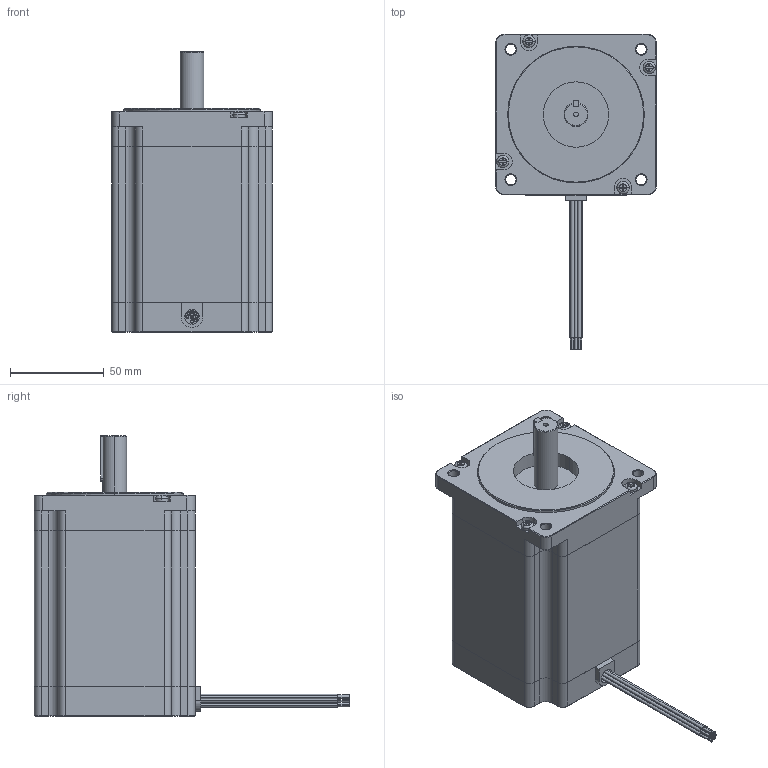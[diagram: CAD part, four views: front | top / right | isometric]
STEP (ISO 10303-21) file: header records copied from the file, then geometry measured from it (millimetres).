
FILE_DESCRIPTION (( 'STEP AP214' ), '1' );
FILE_NAME ('34Y208S-LW8.STEP', '2010-06-09T18:41:22', ( 'Tim Raines' ), ( 'Anaheim Automation' ), 'SwSTEP 2.0', 'SolidWorks 2010', '' );
FILE_SCHEMA (( 'AUTOMOTIVE_DESIGN' ));
Length unit declared in the file: inch
Products named in the file (1): 34Y208S-LW8
Bounding box: 85.85 x 168.4 x 149.86 mm (x, y, z)
Volume: 797811 mm3; surface area: 61071.5 mm2
Topology: 1 solids, 1 shells, 366 faces, 921 edges, 584 vertices
Faces by surface type: plane 178, cylinder 125, cone 55, torus 8
Entity records: 15843 total; most frequent: CARTESIAN_POINT 2157, DIRECTION 1905, ORIENTED_EDGE 1826, EDGE_CURVE 913, AXIS2_PLACEMENT_3D 686, VERTEX_POINT 584, VECTOR 533, LINE 533
